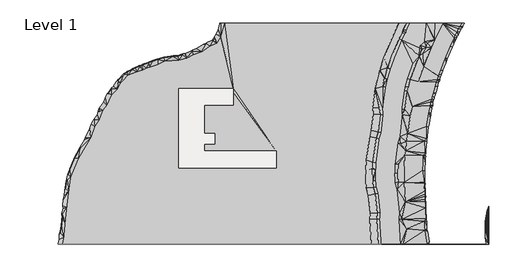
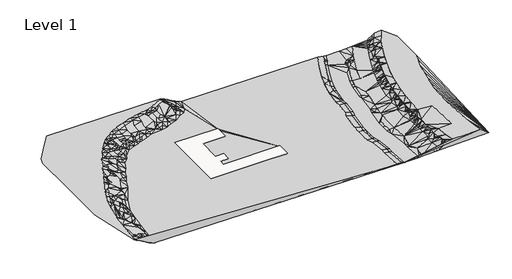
# One storey, part 2 of 2: 1 proxy.
"""IFC4 building model written with IfcOpenShell, lengths in millimetres."""

from ifc_helpers import new_model, si_unit, origin, place, context, project, spatial, triangles, element, save

model = new_model("IFC4")

# Units and contexts
model_context = context("Model", 3, world=origin())
ifc_project = project(units=[si_unit("LENGTHUNIT", "METRE", prefix="MILLI")], contexts=[model_context])

# Site, building, storey
site = spatial("IfcSite", under=ifc_project)
building = spatial("IfcBuilding", under=site)
storey = spatial("IfcBuildingStorey", under=building, Name="Level 1", Elevation=0.0)

# Proxy
placement = place(None, origin())
element("IfcBuildingElementProxy", 1, Name="Building Element Proxy", at=placement, inside=storey, context=model_context, shape_type="Tessellation", body=[
    triangles([(-116676.2735596, -32294.1497314, 9000.0000687), (-107468.0542236, -76033.9217651, 9000.0000687), (128701.1209717, -76106.7824341, -2000.0000153), (202389.0603516, -76033.9217651, 0.0), (202389.0603516, 32615.9789246, 5000.0000381), (202389.0603516, 62484.8790161, 5000.0000381), (195934.5147949, 75728.6938843, 5000.0000381), (190165.0437012, 75728.6938843, 4000.0000305), (188283.05625, 75728.6938843, 3000.0000229), (186840.7070801, 75728.6938843, 2000.0000153), (185398.3765137, 75728.6938843, 1000.0000076), (183956.0645508, 75728.6938843, 0.0), (170715.7006348, 75728.6938843, -1000.0000076), (165378.9845215, 75728.6938843, -1500.0000114), (159535.1923828, 75728.6938843, -2000.0000153), (148118.1869385, 75728.6938843, -2000.0000153), (145813.3973877, 75728.6938843, -1500.0000114), (140679.9618896, 75728.6938843, -1000.0000076), (21321.7636597, 75728.6938843, 0.0), (18626.7444397, 75728.6938843, 1000.0000076), (16020.4953827, 75728.6938843, 2000.0000153), (14239.3982849, 75728.6938843, 3000.0000229), (12455.0630127, 75728.6938843, 4000.0000305), (10673.9728912, 75728.6938843, 5000.0000381), (8908.9579514, 75728.6938843, 6000.0000458), (7114.0721603, 75728.6938843, 7000.0000534), (5233.8346024, 75728.6938843, 8000.000061), (2555.0696228, 75728.6938843, 9000.0000687), (-44190.4328979, 75728.6938843, 9000.0000687), (-74866.3790771, 75728.6938843, 9000.0000687), (-96261.7708008, 75728.6938843, 9000.0000687), (-97282.0062012, 74628.9005493, 9000.0000687), (-104125.4117432, 65879.8113281, 9000.0000687), (-114721.8812256, 51743.71604, 9000.0000687), (-116676.2735596, 46048.7566772, 9000.0000687), (-116676.2735596, 11611.0482513, 9000.0000687), (27411.8989014, 30818.5793335, -261.5912457), (27411.8989014, 29664.6311646, -261.5174493), (27411.8989014, 28463.5137817, -260.7193149), (27411.8989014, 19414.8393585, -307.9383622), (7447.5012268, 19414.8393585, -221.3500247), (7447.5012268, -89.4607912, -323.1300585), (14709.0905457, -89.4607912, -354.6245387), (14709.0905457, -7283.8612152, -392.1673416), (7447.5012268, -7283.8612152, -360.6728614), (7447.5012268, -12132.3617798, -385.9739697), (56699.1158936, -12132.3617798, -599.58495), (56699.1158936, -23510.6998169, -658.9609406), (42349.1778442, -23510.6998169, -596.723315), (263.9777279, -23510.6998169, -369.2784408), (-10026.8391357, -23510.6998169, -320.4108567), (-10026.8391357, -20495.0280762, -315.4554906), (-10026.8391357, -13894.2112152, -319.3793063), (-10026.8391357, 30818.5793335, -86.0528688), (24159.2462769, 30818.5793335, -234.3225795), (25731.3689209, 30818.5793335, -247.8374159), (-113743.5130371, -18667.4489319, 9000.0000687), (-107628.8165039, -3064.8135086, 9000.0000687), (-107550.4491943, 32101.5614868, 9000.0000687), (-106894.5357422, -72001.3493042, 9000.0000687), (-105530.6468994, -73857.8545898, 8000.000061), (-105415.3423096, -76033.9217651, 8000.000061), (-104922.7398193, -54812.9240479, 9000.0000687), (-104030.0501221, -44213.8733276, 9000.0000687), (-104029.5013184, -68672.3338989, 8000.000061), (-103868.9250732, 37662.6778564, 9000.0000687), (-103502.3893066, -43674.6829834, 9000.0000687), (-103493.1154541, -73571.5418335, 7000.0000534), (-103362.6303955, -76033.9217651, 7000.0000534), (-102433.4685059, -70185.5903687, 7000.0000534), (-102097.3866943, -44848.5276123, 8000.000061), (-102042.1435547, -68278.1021484, 7000.0000534), (-101800.9117676, 8238.9732651, 9000.0000687), (-101706.9826172, 43962.4328613, 9000.0000687), (-101455.574707, -73285.2290771, 6000.0000458), (-101333.5263428, -76033.9217651, 6000.0000458), (-101159.2858154, -29721.5486206, 9000.0000687), (-100971.9577148, -43638.9177246, 8000.000061), (-100164.7139648, -45483.181897, 7000.0000534), (-100058.8134521, -67409.4760986, 6000.0000458), (-99620.4588135, -76033.9217651, 5000.0000381), (-99346.9592285, -72653.7001831, 5000.0000381), (-99333.7507324, -44591.3014526, 7000.0000534), (-99300.236499, -22231.5360352, 9000.0000687), (-99077.2919678, -31942.2223755, 8000.000061), (-98232.0412354, -46117.8315308, 6000.0000458), (-98231.3715088, 47714.8177734, 9000.0000687), (-98029.9977539, -66022.4723877, 5000.0000381), (-97800.7001221, -45677.0723877, 6000.0000458), (-97701.1992188, -73178.8588257, 4000.0000305), (-97357.6201904, -32335.1611816, 7000.0000534), (-97158.8044189, -23773.4907532, 8000.000061), (-97115.6256592, -15843.3003845, 9000.0000687), (-96288.4761475, -76033.9217651, 3000.0000229), (-96122.4118652, -73891.9501831, 3000.0000229), (-96068.2942383, -65407.6634033, 4000.0000305), (-95751.2252197, -32825.4638123, 6000.0000458), (-95613.6708252, -24715.8006775, 7000.0000534), (-95076.2524658, -17467.5942627, 8000.000061), (-94844.34104, 53035.9766968, 9000.0000687), (-94685.0019287, -47509.5698364, 4000.0000305), (-94643.5625977, -16232.367334, 8000.000061), (-94639.3954102, -49564.7234619, 4000.0000305), (-94598.8490479, -76033.9217651, 2000.0000153), (-94357.7102783, 24969.4247314, 9000.0000687), (-94284.8310059, -73454.4978149, 2000.0000153), (-94226.2764404, -9454.0490982, 9000.0000687), (-94108.8324463, -64803.5932983, 3000.0000229), (-94107.0837158, -25490.4440918, 6000.0000458), (-93612.6301758, -18519.5242401, 7000.0000534), (-93067.6959961, -48022.2315674, 3000.0000229), (-93014.5736572, -52429.1207153, 3000.0000229), (-92603.2871338, -34101.188269, 4000.0000305), (-92287.3436279, -76033.9217651, 1000.0000076), (-92279.0557617, -11165.8010101, 8000.000061), (-92235.3840088, 27805.8609009, 9000.0000687), (-92138.5341064, -19321.7043457, 6000.0000458), (-92125.5023438, -63934.9672485, 2000.0000153), (-91524.3762451, -49225.8883301, 2000.0000153), (-91397.2398193, -54955.8734619, 2000.0000153), (-91300.1387695, -68158.1187744, 1000.0000076), (-90986.8555664, -26724.0664673, 4000.0000305), (-90972.1494873, -34467.4449829, 3000.0000229), (-90345.815625, -19368.8410034, 5000.0000381), (-90164.0220703, 31892.0254395, 9000.0000687), (-90142.181543, -63066.3365479, 1000.0000076), (-89828.814624, -55278.4351685, 1000.0000076), (-89808.1182129, -76033.9217651, 0.0), (-89765.9068359, -58113.4202637, 1000.0000076), (-89614.4463135, -13443.4143127, 6000.0000458), (-89382.7674316, -27206.7579346, 3000.0000229), (-89345.3650635, -34942.8206177, 2000.0000153), (-89313.3112061, -5487.6348083, 8000.000061), (-89017.692041, -20517.0151062, 4000.0000305), (-88454.5357178, 1758.2880249, 9000.0000687), (-87681.4852295, -37956.0157654, 1000.0000076), (-87677.2994385, -27413.2453308, 2000.0000153), (-87648.9848877, -13282.2671722, 5000.0000381), (-87626.2885986, -2202.1046848, 8000.000061), (-87624.3631348, -21513.2566223, 3000.0000229), (-86704.4750977, -133.0016383, 8000.000061), (-86695.2384521, -31968.4417053, 1000.0000076), (-86414.409082, -14508.3667511, 4000.0000305), (-86273.1432861, 38792.7181824, 9000.0000687), (-86080.5875977, 934.0961088, 8000.000061), (-85989.4210693, 64987.4657959, 9000.0000687), (-85848.825, -28342.9164917, 1000.0000076), (-85754.7005127, -21424.10625, 2000.0000153), (-85398.4431885, 2317.584264, 8000.000061), (-84796.2845947, -419.9130318, 7000.0000534), (-84716.2987793, 3701.0723465, 8000.000061), (-84679.7614746, -24879.5162659, 1000.0000076), (-84533.2773926, 4282.377562, 8000.000061), (-84174.8248535, -29980.2909668, 0.0), (-84034.1543701, 5084.5605743, 8000.000061), (-83884.1449219, -16923.2960907, 2000.0000153), (-83809.554126, 5754.1708649, 8000.000061), (-83352.0192627, 6468.0488022, 8000.000061), (-82851.2963379, 7482.3124741, 8000.000061), (-82526.8789307, 14092.8653687, 9000.0000687), (-81797.090918, 1873.3286774, 6000.0000458), (-81342.2628662, -16907.584259, 1000.0000076), (-81164.9713623, 17837.2879761, 9000.0000687), (-80340.1751953, -2728.3663124, 4000.0000305), (-79955.501001, 9466.286142, 7000.0000534), (-79627.9116943, 19891.5346802, 9000.0000687), (-79388.0379639, 49351.6853027, 9000.0000687), (-79326.4882324, 17043.8747772, 8000.000061), (-78897.1562988, -17266.875119, 0.0), (-78362.7424072, -6383.9673065, 2000.0000153), (-77778.7268921, -10298.1900146, 1000.0000076), (-77499.0369873, -5015.5031616, 2000.0000153), (-77452.8351563, 16297.4598724, 7000.0000534), (-76953.6749268, -3439.0377594, 2000.0000153), (-76702.099585, 12563.0587463, 6000.0000458), (-76459.1144165, 26121.370697, 9000.0000687), (-75797.9408203, 21925.2593811, 8000.000061), (-75677.1807495, 28399.8688293, 9000.0000687), (-75489.1503662, 15671.3725067, 6000.0000458), (-75072.8687988, 19488.6906647, 7000.0000534), (-74314.9104126, 29870.6209167, 9000.0000687), (-74245.7750977, 17418.4530762, 6000.0000458), (-73878.3417114, 27518.8388855, 8000.000061), (-73496.2161987, 22509.6074341, 7000.0000534), (-72713.273291, 12836.9315643, 4000.0000305), (-72189.2494629, 10089.2713715, 3000.0000229), (-72079.5026733, 26637.8089417, 7000.0000534), (-71657.5098267, 7354.2714523, 2000.0000153), (-71542.2936035, 14817.6839172, 4000.0000305), (-71271.4124634, 15901.5607819, 4000.0000305), (-71023.2648193, 23592.8924744, 6000.0000458), (-70771.210437, 30994.9708923, 8000.000061), (-70747.5235107, 35678.8501099, 9000.0000687), (-70341.1622681, -2820.2115784, 0.0), (-70280.6636353, 25756.7789978, 6000.0000458), (-69956.6927124, 60438.2830078, 9000.0000687), (-69936.8241577, 28960.6020447, 7000.0000534), (-69266.2185791, 14886.4529755, 3000.0000229), (-68997.3512695, 27236.409613, 6000.0000458), (-68789.5081421, 17106.7011749, 3000.0000229), (-68022.7409912, 9510.99039, 1000.0000076), (-67545.9514893, 4829.094191, 0.0), (-67535.7195557, 40424.9139038, 9000.0000687), (-66970.5912598, 15046.2885681, 2000.0000153), (-66741.8563843, 24383.9023315, 4000.0000305), (-66544.7474854, 37560.5747864, 8000.000061), (-66261.9228882, 18346.8743134, 2000.0000153), (-65140.6703979, 36445.3893677, 7000.0000534), (-64862.6687622, 24276.7298035, 3000.0000229), (-64676.9219604, 9239.1424484, 0.0), (-64674.9639404, 15206.122998, 1000.0000076), (-64260.0311279, 17138.6643402, 1000.0000076), (-63495.7056885, 32965.5971191, 5000.0000381), (-62961.8406006, 46181.5206665, 9000.0000687), (-62815.5890625, 30925.4751343, 4000.0000305), (-62101.4187012, 15968.4101898, 0.0), (-61793.8932861, 43849.2537231, 8000.000061), (-61663.8268066, 29659.2500977, 3000.0000229), (-61139.2309204, 44429.6229492, 8000.000061), (-61021.9264526, 27559.2015381, 2000.0000153), (-60829.1149658, 44897.7432129, 8000.000061), (-60174.6990967, 45489.1164185, 8000.000061), (-59960.567981, 40527.6285645, 6000.0000458), (-59864.3366455, 45946.2327026, 8000.000061), (-59357.8977905, 38639.5368347, 5000.0000381), (-59305.0265991, 19580.9513123, 0.0), (-59188.2662842, 50121.317395, 9000.0000687), (-58605.7762573, 36873.7329895, 4000.0000305), (-58484.2580933, 27296.8896423, 1000.0000076), (-58348.4570801, 69132.6825439, 9000.0000687), (-57579.5877319, 35484.2224548, 3000.0000229), (-57552.7614624, 48215.0663086, 8000.000061), (-57054.5314087, 33395.5662231, 2000.0000153), (-56291.2431152, 44699.7971558, 6000.0000458), (-56080.5350464, 26676.529834, 0.0), (-56074.8191162, 30776.7679321, 1000.0000076), (-55195.5006958, 43420.7031372, 5000.0000381), (-54952.7480713, 53607.4208862, 9000.0000687), (-54808.8824341, 41447.8561157, 4000.0000305), (-54539.7546753, 50837.6969238, 8000.000061), (-53805.0878906, 40072.7633057, 3000.0000229), (-53774.7455566, 49212.7682007, 7000.0000534), (-53039.8136719, 47671.2669434, 6000.0000458), (-52678.2357422, 38782.9838928, 2000.0000153), (-52254.5220703, 46165.7634888, 5000.0000381), (-52252.1315186, 30397.8282715, 0.0), (-51719.5082153, 36405.1732178, 1000.0000076), (-51435.6232178, 44678.5240356, 4000.0000305), (-50502.4941284, 43276.3119507, 3000.0000229), (-50184.4949341, 34459.2129272, 0.0), (-50183.4949951, 56660.4903442, 9000.0000687), (-49785.7657837, 41667.2799316, 2000.0000153), (-49780.798645, 54011.8845703, 8000.000061), (-48844.1906982, 50605.5715576, 6000.0000458), (-48356.7041748, 48958.9743896, 5000.0000381), (-47828.3643311, 42992.6083374, 2000.0000153), (-47608.8567993, 47453.7499878, 4000.0000305), (-47300.1919189, 40853.952832, 1000.0000076), (-46807.4545532, 45980.1283081, 3000.0000229), (-45832.8768311, 41940.7516113, 1000.0000076), (-44805.17677, 40098.4640625, 0.0), (-44740.7993042, 44978.891748, 2000.0000153), (-44491.3075562, 59540.2727051, 9000.0000687), (-44033.154126, 56996.5070435, 8000.000061), (-43704.4532593, 53404.4286255, 6000.0000458), (-42642.3180908, 52042.9535889, 5000.0000381), (-42352.2892822, 50340.0947388, 4000.0000305), (-42222.3483765, 43795.0849365, 1000.0000076), (-41689.9529663, 48801.7374756, 3000.0000229), (-41350.3225342, 46961.7474609, 2000.0000153), (-39908.5640259, 44971.980542, 1000.0000076), (-38494.2666321, 42519.6511597, 0.0), (-37219.6002502, 59818.306897, 8000.000061), (-37175.0355286, 56213.978064, 6000.0000458), (-37013.1477356, 62548.5262939, 9000.0000687), (-36879.0117371, 46196.5848633, 1000.0000076), (-36116.5885071, 54811.1474121, 5000.0000381), (-35964.0606079, 53093.6522461, 4000.0000305), (-35931.141687, 51333.7224609, 3000.0000229), (-35037.3543823, 46892.4168091, 1000.0000076), (-34697.098407, 43596.6877441, 0.0), (-33769.7364075, 50078.9990479, 2000.0000153), (-32183.3588196, 44940.8382568, 0.0), (-30549.9213135, 48516.127002, 1000.0000076), (-30079.5546753, 45477.1357544, 0.0), (-29664.4683838, 62294.8208496, 8000.000061), (-29657.9664551, 58762.6969116, 6000.0000458), (-29503.6223877, 64938.3897217, 9000.0000687), (-28730.7904907, 55551.4836182, 4000.0000305), (-28424.7998657, 62699.4194092, 8000.000061), (-28413.4703247, 52054.9621582, 2000.0000153), (-28237.7275635, 53952.8602661, 3000.0000229), (-28237.5043213, 49457.8044067, 1000.0000076), (-24605.3632324, 47462.0518066, 0.0), (-24554.1919373, 50849.4636475, 1000.0000076), (-22607.280542, 64008.7534424, 8000.000061), (-22087.1611267, 57248.4498047, 4000.0000305), (-21976.5492737, 60651.9490356, 6000.0000458), (-21871.5394043, 66697.1660889, 9000.0000687), (-21582.6105286, 55643.8779785, 3000.0000229), (-21392.1593628, 53962.2550415, 2000.0000153), (-20322.4246582, 51937.8018677, 1000.0000076), (-19561.5408691, 49783.2078003, 0.0), (-16622.4725922, 64988.8889648, 8000.000061), (-16045.4903687, 65178.3425171, 8000.000061), (-14706.0988678, 65302.4140137, 8000.000061), (-14285.6698792, 63591.9416748, 7000.0000534), (-14230.3093048, 52863.9685913, 1000.0000076), (-12549.9374542, 58821.1166016, 4000.0000305), (-12447.947168, 68343.9911499, 9000.0000687), (-12415.9967926, 60580.3394531, 5000.0000381), (-11149.6659485, 57447.5678833, 3000.0000229), (-10797.9699738, 55773.7863281, 2000.0000153), (-10739.71539, 53096.5311401, 1000.0000076), (-10438.8953796, 66342.8435303, 8000.000061), (-10356.5411041, 64495.3283936, 7000.0000534), (-9751.0530624, 50521.0790405, 0.0), (-9711.1095703, 62950.7156982, 6000.0000458), (-8892.7176636, 61471.6292358, 5000.0000381), (-7955.6748596, 60044.0140503, 4000.0000305), (-7647.7965591, 70061.2444702, 9000.0000687), (-7405.6741287, 54079.3176636, 1000.0000076), (-6085.5669159, 57124.0713501, 2000.0000153), (-5786.7834091, 68190.5307495, 8000.000061), (-5712.9507065, 66268.2341309, 7000.0000534), (-4943.7790512, 64786.2920288, 6000.0000458), (-4714.4052612, 51724.4009399, 0.0), (-4174.4056641, 63304.4475952, 5000.0000381), (-1725.1082188, 60797.2238892, 3000.0000229), (-1190.7351677, 70477.2330322, 8000.000061), (-912.8562716, 56489.0263916, 1000.0000076), (-461.6014029, 59535.3009155, 2000.0000153), (9.8007258, 53993.7600952, 0.0), (2166.8123623, 74936.7282715, 9000.0000687), (3057.5781944, 72590.7691406, 8000.000061), (4046.3347023, 73082.7437622, 8000.000061), (4472.4889229, 74188.9088013, 8000.000061), (4892.3961411, 74807.0943237, 8000.000061), (5319.5032104, 71783.2835449, 7000.0000534), (5757.4939178, 56059.9874634, 0.0), (6498.6265869, 70496.0737427, 6000.0000458), (6573.7295609, 74270.2247681, 7000.0000534), (7691.3404129, 69235.1646606, 5000.0000381), (8153.1267609, 69812.1247925, 5000.0000381), (8661.6463028, 67873.2524414, 4000.0000305), (8842.2846954, 61594.910083, 1000.0000076), (9337.3951721, 68572.7632324, 4000.0000305), (10388.9100586, 74919.1014404, 5000.0000381), (10514.5721558, 65046.494751, 2000.0000153), (10544.058728, 67393.9421631, 3000.0000229), (10813.0957947, 71640.4736572, 4000.0000305), (11349.4677063, 60120.8977295, 0.0), (11657.3570526, 65982.5352905, 2000.0000153), (12132.5222351, 66649.6155029, 2000.0000153), (13322.2275238, 63691.8797607, 1000.0000076), (13633.0225067, 69629.3685059, 2000.0000153), (13885.1187469, 74721.6390747, 3000.0000229), (14556.8044922, 65363.8660767, 1000.0000076), (15722.6612366, 74835.353064, 2000.0000153), (16002.4057892, 62005.9501099, 0.0), (18661.2772156, 66354.0149414, 0.0), (118073.5185059, -25230.206488, -1000.0000076), (118131.3382324, -32628.5549011, -1000.0000076), (118507.4083008, -37493.7160767, -1000.0000076), (118515.696167, -18089.7551239, -1000.0000076), (119964.8263184, -42464.2033813, -1000.0000076), (120683.8428955, -2109.3516254, -1000.0000076), (120856.4184082, -58849.7195068, -1000.0000076), (121274.9696045, -54693.5452881, -1000.0000076), (121902.4940918, -76033.9217651, -1000.0000076), (122001.1764404, 1998.2021599, -1000.0000076), (122690.0739258, -24375.1191467, -1500.0000114), (122766.9994629, -32434.678363, -1500.0000114), (122815.5081299, 17745.5982239, -1000.0000076), (122862.7424561, -24126.2668945, -1500.0000114), (123057.9956543, -19791.2710327, -1500.0000114), (123184.173999, -37022.5959961, -1500.0000114), (123203.9495361, 13205.4137238, -1000.0000076), (124530.7801758, -41548.4081177, -1500.0000114), (124676.4922119, 30839.0990112, -1000.0000076), (124848.3049805, -32347.6325134, -2000.0000153), (124915.7520264, -24819.8547913, -2000.0000153), (125134.3526367, -19966.4324341, -2000.0000153), (125222.2263428, -3143.9037392, -1500.0000114), (125232.1885254, -36604.7122009, -2000.0000153), (125515.0921875, -58892.535498, -1500.0000114), (125835.8074951, 37109.0628113, -1000.0000076), (125934.9177246, -54654.8174194, -1500.0000114), (126561.7352783, 1032.7848524, -1500.0000114), (126580.7852783, -41137.2332153, -2000.0000153), (126607.9278076, -75939.8577393, -1500.0000114), (127261.0693359, -3604.599456, -2000.0000153), (127507.1659424, 17348.3538666, -1500.0000114), (127534.6712402, 43485.234082, -1000.0000076), (127604.2576904, -58935.2166138, -2000.0000153), (127862.0838135, 13149.3066833, -1500.0000114), (128027.1249023, -54637.4277832, -2000.0000153), (128609.3126221, 599.3356556, -2000.0000153), (129601.3543945, 17296.3151825, -2000.0000153), (129603.1868408, 32100.1848267, -1500.0000114), (129953.4724365, 13124.1151978, -2000.0000153), (130567.7512207, 52085.0533447, -1000.0000076), (130762.7160645, 37907.2978088, -1500.0000114), (130969.6522705, 38165.7843567, -1500.0000114), (131651.2571777, 31723.7543152, -2000.0000153), (132870.4757813, 37208.5311584, -2000.0000153), (132920.221582, 45107.1443848, -1500.0000114), (133144.8032227, 45302.0813232, -1500.0000114), (134925.8759033, 44090.9459473, -2000.0000153), (135465.1732178, 64195.0211426, -1000.0000076), (136076.8568115, 53373.1142578, -1500.0000114), (137948.1286377, -27514.5019409, -2000.0000153), (137962.3696289, -29458.9367432, -2000.0000153), (138013.3153564, 52607.9051514, -2000.0000153), (138143.7166992, -33848.6385681, -2000.0000153), (138238.3155762, -21071.8882141, -2000.0000153), (139518.4420898, -38542.3171875, -2000.0000153), (140030.7829102, -27549.909082, -1500.0000114), (140044.5030029, -29459.4878723, -1500.0000114), (140128.2839355, -6512.069371, -2000.0000153), (140198.6145264, -33398.4846497, -1500.0000114), (140314.6632568, -21247.0519409, -1500.0000114), (140831.7944824, -58706.9468262, -2000.0000153), (140917.6218018, 65014.0967285, -1500.0000114), (141231.1282471, -54527.6995972, -2000.0000153), (141531.6773437, -2136.1800751, -2000.0000153), (141867.8986816, -76033.9217651, -2000.0000153), (142236.480835, -6756.4968933, -1500.0000114), (142816.9012207, 16960.643811, -2000.0000153), (142818.6034424, 64164.6322998, -2000.0000153), (142904.0679932, -58909.8414185, -1500.0000114), (142939.5355957, 69540.6297363, -1500.0000114), (143152.3133057, 12965.1330414, -2000.0000153), (143682.5321045, 70224.5321777, -1500.0000114), (143799.7993652, 71390.9260986, -1500.0000114), (143954.320166, -76033.9217651, -1500.0000114), (144474.3628418, -33469.8454102, -1000.0000076), (144487.0504395, -22746.006958, -1000.0000076), (144576.710083, 29348.0714172, -2000.0000153), (144668.2579834, 68301.9472046, -2000.0000153), (144897.0905273, -14822.820813, -1000.0000076), (144911.0989746, 16908.605127, -1500.0000114), (145006.6652344, -46825.8627319, -1000.0000076), (145168.1344482, 32310.0069031, -2000.0000153), (145349.6024414, -11830.9662231, -1000.0000076), (145675.043042, 69228.6580811, -2000.0000153), (145837.4889404, 70844.5036377, -2000.0000153), (145958.0304199, -5335.1499298, -1000.0000076), (146218.0331543, -65404.6868408, -1000.0000076), (146557.296167, 37558.4353821, -2000.0000153), (146624.7804199, 28971.6409058, -1500.0000114), (146897.6288818, 101.938409, -1000.0000076), (147197.545459, 31840.1309326, -1500.0000114), (148538.4496582, 36915.8211182, -1500.0000114), (148729.64729, 12101.0299713, -1000.0000076), (149798.5029785, 18622.528418, -1000.0000076), (150362.9336426, 48098.292041, -2000.0000153), (152290.1648438, 47310.1029419, -1500.0000114), (153937.5712646, 35504.9281677, -1000.0000076), (154697.6830078, 53098.7403076, -1500.0000114), (154815.8060303, 58803.6339478, -2000.0000153), (155571.173877, 60478.0433716, -2000.0000153), (156476.0674805, 57410.2771362, -1500.0000114), (156716.7783691, 57954.169519, -1500.0000114), (157060.9248047, -25330.5329224, 0.0), (157158.9095215, 54960.9336182, -1500.0000114), (157464.0443848, -15201.0674927, 0.0), (157884.0931641, 46432.0960693, -1000.0000076), (158145.6585938, -60407.9639282, 0.0), (158249.8382813, 62943.6463623, -2000.0000153), (158293.1472656, -5124.530809, 0.0), (158340.7350586, -33627.3637024, 1000.0000076), (158353.9807617, -36300.849353, 1000.0000076), (158426.7577148, -34272.1801575, 1000.0000076), (158484.0379395, -39306.6054199, 1000.0000076), (158587.3804687, -37788.326001, 1000.0000076), (158606.0583984, -66324.3237305, 0.0), (158672.5287598, -41893.0754517, 1000.0000076), (158744.1336914, -45318.1268555, 1000.0000076), (158811.5342285, -43117.4239746, 1000.0000076), (158872.9816406, -13291.7921722, 1000.0000076), (158912.5513184, -47705.2137085, 1000.0000076), (158938.6892578, -46878.3385986, 1000.0000076), (159033.4741699, -51119.9959717, 1000.0000076), (159308.3411133, -58219.7161011, 1000.0000076), (159549.5915039, 4807.7452034, 0.0), (159574.7620605, -30465.8310974, 2000.0000153), (159647.9296875, -23123.4397339, 2000.0000153), (159727.682959, 59388.6959106, -1500.0000114), (159781.7261719, -3297.6283676, 1000.0000076), (160110.524707, -76033.9217651, 0.0), (160126.9888184, -13290.5259705, 2000.0000153), (160242.3492187, 61947.7722656, -1500.0000114), (160548.4142578, -57855.6918091, 2000.0000153), (160771.7680664, -5447.4913284, 2000.0000153), (160803.6730957, -26271.680127, 3000.0000229), (160993.4847656, -64787.3524292, 2000.0000153), (161170.3111816, -76033.9217651, 1000.0000076), (161231.2376953, 14501.7985474, 0.0), (161331.5478516, -13897.974939, 3000.0000229), (161814.6811523, -58030.7043823, 3000.0000229), (162011.5063477, 4375.8997604, 2000.0000153), (162212.2010742, -4004.6834656, 3000.0000229), (162249.3708984, -64817.9180054, 3000.0000229), (162252.1242188, 19076.0530609, 0.0), (162445.0798828, -25388.0084839, 4000.0000305), (162464.4461426, 21463.2317688, 0.0), (162505.0390137, -76033.9217651, 2000.0000153), (162532.5164063, -23017.3276062, 4000.0000305), (162546.5992676, -22713.6205627, 4000.0000305), (162562.2448242, -29789.9653748, 4000.0000305), (162562.9703613, -29396.3870728, 4000.0000305), (162633.6637207, -20539.7276733, 4000.0000305), (162647.746582, -20236.0206299, 4000.0000305), (162679.0562988, -34388.7125793, 4000.0000305), (162679.7818359, -33995.1342773, 4000.0000305), (162734.8296387, -18062.1289032, 4000.0000305), (162748.8938965, -17758.420697, 4000.0000305), (162797.3188477, -38200.3008545, 4000.0000305), (162835.3630371, -38532.1782715, 4000.0000305), (162835.9769531, -15584.5289703, 4000.0000305), (162839.5488281, 58789.5092285, -1000.0000076), (162850.0598145, -15280.8219269, 4000.0000305), (162876.9046875, -24139.4823669, 4000.0000305), (162947.8770996, -42733.6613525, 4000.0000305), (162983.2609863, -21666.723999, 4000.0000305), (163028.3373047, -13121.3258331, 4000.0000305), (163089.5986816, -19193.9667938, 4000.0000305), (163098.4539551, -47267.0265015, 4000.0000305), (163167.1753418, -27131.4532288, 4000.0000305), (163168.8682617, -27475.2764282, 4000.0000305), (163189.1833008, -33318.7871887, 4000.0000305), (163193.7783691, -30827.5183228, 4000.0000305), (163195.936377, -16721.2084259, 4000.0000305), (163214.0748047, -36671.0290833, 4000.0000305), (163216.6979004, -51078.6124512, 4000.0000305), (163233.459668, -10660.5760345, 4000.0000305), (163248.1564453, -51581.0282959, 4000.0000305), (163260.304541, -10359.3223297, 4000.0000305), (163272.9921387, 23650.3075745, 0.0), (163325.137793, -14251.8498505, 4000.0000305), (163367.2747559, -55611.9776001, 4000.0000305), (163438.5820312, -8199.826236, 4000.0000305), (163448.0884277, -42100.6720825, 4000.0000305), (163465.4083008, -7898.5725311, 4000.0000305), (163511.8612793, 5723.9808472, 3000.0000229), (163517.8330078, -60145.3380981, 4000.0000305), (163535.2831055, -11797.0601532, 4000.0000305), (163643.7043945, -5739.0770187, 4000.0000305), (163670.2702148, 13955.6865326, 2000.0000153), (163670.5306641, -5437.8227325, 4000.0000305), (163682.939209, 25704.1077942, 0.0), (163711.588623, -48391.2881104, 4000.0000305), (163745.4470215, -9342.2722, 4000.0000305), (163830.3720703, -76033.9217651, 3000.0000229), (163940.0956055, -3311.7635513, 4000.0000305), (163945.6022461, -53820.9287842, 4000.0000305), (163946.9789063, -40416.9143921, 4000.0000305), (163947.4998047, -65595.7682007, 4000.0000305), (163955.6109375, -6887.4830841, 4000.0000305), (163979.6466797, -3015.7682465, 4000.0000305), (164188.6757812, -4440.8231232, 4000.0000305), (164249.2116211, -889.7086292, 4000.0000305), (164288.7626953, -593.713397, 4000.0000305), (164340.5734863, -68205.3065918, 4000.0000305), (164487.2436035, -66685.5528442, 4000.0000305), (164502.5542969, -2026.2353325, 4000.0000305), (164517.6975586, 28170.4060913, 0.0), (164558.3276367, 1532.3461475, 4000.0000305), (164597.8787109, 1828.3414524, 4000.0000305), (164733.647168, -70814.8449829, 4000.0000305), (164816.4328125, 388.3523129, 4000.0000305), (164862.7555664, -69169.6012207, 4000.0000305), (164867.4436523, 3954.4010696, 4000.0000305), (164906.9947266, 4250.3960838, 4000.0000305), (165082.4444824, -73137.019519, 4000.0000305), (165130.2927246, 2802.9399582, 4000.0000305), (165238.2675293, -71653.6449463, 4000.0000305), (165239.0302734, 64453.8053467, -1000.0000076), (165240.853418, 15233.565509, 3000.0000229), (165266.8797363, 6321.306015, 4000.0000305), (165318.9881836, 6608.9617126, 4000.0000305), (165466.8489258, 5203.9951447, 4000.0000305), (165519.7759277, -76033.9217651, 4000.0000305), (165678.8545898, 8679.8713531, 4000.0000305), (165730.9816406, 8967.5276321, 4000.0000305), (165756.0033691, 23252.6923096, 2000.0000153), (165762.384375, 32690.5022827, 0.0), (165883.2700195, 7553.5482422, 4000.0000305), (166090.8480469, 11038.4366913, 4000.0000305), (166299.6725098, 9903.1013397, 4000.0000305), (166341.3257812, 35290.3482422, 0.0), (166554.9685547, 13684.6588898, 4000.0000305), (167004.1504395, 15682.875293, 4000.0000305), (167068.6860352, 15960.2525482, 4000.0000305), (167163.136084, 14613.9230988, 4000.0000305), (167175.65625, 37043.2714783, 0.0), (167328.4097168, 24220.577417, 3000.0000229), (167401.298291, -29589.5217957, 5000.0000381), (167517.8679199, 17958.4689514, 4000.0000305), (167582.4035156, 18235.8450439, 4000.0000305), (167689.5597656, -18897.6755768, 5000.0000381), (167697.3360352, 16940.1008789, 4000.0000305), (167699.4196289, 39364.6530396, 0.0), (168031.5854004, 20234.0626099, 4000.0000305), (168231.5359863, 19266.2786591, 4000.0000305), (168352.8681152, -9241.4155655, 5000.0000381), (168433.3097168, -58719.9460327, 5000.0000381), (168545.3028809, 22509.6539429, 4000.0000305), (168609.819873, 22787.0323608, 4000.0000305), (168765.7359375, 21592.4564392, 4000.0000305), (168790.0135254, 33921.2922729, 2000.0000153), (169143.5361328, 24714.3542542, 4000.0000305), (169245.7438477, -68124.3719971, 5000.0000381), (169314.0931641, 23869.803479, 4000.0000305), (169385.0841797, 43538.8726685, 0.0), (169422.979541, 285.3020077, 5000.0000381), (169753.359375, 26909.3807373, 4000.0000305), (169929.4416504, 26054.2840942, 4000.0000305), (170066.7169922, 33797.9184082, 3000.0000229), (170363.1826172, 29104.4095459, 4000.0000305), (170472.0317871, -76033.9217651, 5000.0000381), (170544.7715332, 28238.762384, 4000.0000305), (170894.6664551, 9582.3273148, 5000.0000381), (170973.0058594, 31299.4360291, 4000.0000305), (171049.1500488, 31567.1406189, 4000.0000305), (171160.1200195, 30423.2429993, 4000.0000305), (171655.4758301, 33426.3666687, 4000.0000305), (171793.551123, 32590.5409424, 4000.0000305), (171801.4576172, 42871.6622314, 2000.0000153), (172347.8800781, 35543.93974, 4000.0000305), (172490.2527832, 34698.0518372, 4000.0000305), (172538.5103027, 17675.7862061, 5000.0000381), (172604.329541, 51973.7624634, 0.0), (173040.2843262, 37661.5151367, 4000.0000305), (173186.9544434, 36805.5650574, 4000.0000305), (173248.4018555, 43179.4480957, 3000.0000229), (173818.729834, 40037.4352295, 4000.0000305), (174507.5063965, 41882.117981, 4000.0000305), (174584.264502, 40976.9453247, 4000.0000305), (174620.0018555, 42174.355957, 4000.0000305), (174899.2220215, 50987.4459229, 2000.0000153), (175005.9503906, 27205.9579834, 5000.0000381), (175308.778418, 44019.0387085, 4000.0000305), (175409.2560059, 43151.4870117, 4000.0000305), (175421.273877, 44311.2813354, 4000.0000305), (175970.9333496, 59894.7952515, 0.0), (176110.0504395, 46155.959436, 4000.0000305), (176185.729541, 50828.3393555, 3000.0000229), (176234.2289063, 45326.0240479, 4000.0000305), (177599.5595215, 35570.1055847, 5000.0000381), (178250.7011719, 58869.6252686, 2000.0000153), (178593.8244141, 65600.3911743, 0.0), (179268.1460449, 67623.58396, 0.0), (179384.7900879, 58330.5930542, 3000.0000229), (179589.6706055, -29824.1842163, 5000.0000381), (180186.7504395, 56169.1528931, 4000.0000305), (180335.1320801, 43239.6862793, 5000.0000381), (180479.3279297, -10490.6817535, 5000.0000381), (180613.4964844, -58215.302417, 5000.0000381), (180624.5283691, 69535.5928345, 0.0), (181334.5501465, 71828.4714844, 0.0), (181843.7469727, 66447.7348022, 2000.0000153), (181860.4715332, 59825.6831909, 4000.0000305), (182578.232373, 61387.0343994, 4000.0000305), (182655.2323242, 73470.7991455, 0.0), (182658.8600098, 60599.0778442, 4000.0000305), (182809.1206055, -76033.9217651, 5000.0000381), (182855.0526855, 7224.2683411, 5000.0000381), (182990.4118652, 65937.6078003, 3000.0000229), (185211.5228027, 55146.4153198, 5000.0000381), (185845.270166, 74000.8923706, 2000.0000153), (186681.0331055, 23698.2767395, 5000.0000381), (187347.7272949, 74105.2208862, 3000.0000229), (187378.9253906, 70892.8588257, 4000.0000305), (188751.1020996, 62650.8921387, 5000.0000381), (191644.8975586, 38689.9081787, 5000.0000381), (191778.0429199, -30058.8489624, 5000.0000381), (192085.261377, -19383.7226532, 5000.0000381), (192274.3475098, 69375.9932739, 5000.0000381), (192704.3119629, -10783.5150421, 5000.0000381), (192793.7018555, -57710.6588013, 5000.0000381), (193369.40625, -64217.4383789, 5000.0000381), (193678.9501465, -2358.1307716, 5000.0000381), (194815.438916, 4866.1663467, 5000.0000381), (195146.2280273, -76033.9217651, 5000.0000381), (196516.7862305, 13061.7131927, 5000.0000381), (198356.1344238, 20190.597821, 5000.0000381), (199581.2317383, 57054.4895508, 5000.0000381), (200625.7075195, 27554.941333, 5000.0000381), (-85300.1980225, 8238.9732651, 9000.0000687), (-85510.8921387, -39486.8641846, 0.0), (-86875.8227783, -50603.3809937, 0.0), (-87994.2754395, -61244.7640137, 0.0), (-88865.8408447, -71206.7140869, 0.0)], [[2, 62, 61], [62, 2, 3], [61, 69, 68], [69, 61, 62], [68, 69, 76], [60, 61, 68], [62, 3, 69], [2, 61, 60], [76, 81, 75], [81, 76, 3], [81, 82, 75], [82, 81, 90], [82, 90, 80], [68, 75, 70], [81, 94, 90], [76, 75, 68], [69, 3, 76], [82, 70, 75], [60, 70, 65], [70, 60, 68], [63, 65, 72], [65, 63, 60], [71, 63, 79], [63, 71, 64], [72, 65, 70], [2, 60, 1], [80, 88, 63], [80, 72, 70], [80, 70, 82], [103, 86, 63], [83, 79, 86], [79, 63, 86], [101, 89, 86], [71, 79, 78], [88, 96, 63], [63, 72, 80], [90, 88, 80], [89, 83, 86], [88, 90, 96], [1, 60, 63], [94, 104, 95], [104, 94, 3], [106, 96, 90], [106, 95, 104], [96, 106, 121], [90, 95, 106], [104, 114, 106], [95, 90, 94], [114, 128, 695], [128, 114, 3], [695, 128, 51], [695, 121, 106], [108, 121, 118], [108, 96, 121], [126, 118, 121], [96, 108, 120], [121, 695, 126], [106, 114, 695], [104, 3, 114], [129, 108, 118], [103, 112, 119], [63, 112, 103], [103, 111, 101], [111, 103, 119], [692, 136, 111], [89, 101, 136], [112, 693, 119], [101, 86, 103], [126, 694, 129], [694, 126, 695], [129, 694, 127], [129, 120, 108], [127, 693, 112], [127, 120, 129], [693, 127, 694], [127, 112, 120], [693, 694, 51], [112, 63, 120], [129, 118, 126], [136, 101, 111], [694, 695, 51], [96, 120, 63], [81, 3, 94], [111, 119, 692], [64, 67, 1], [64, 71, 67], [67, 77, 1], [85, 77, 67], [85, 67, 78], [57, 1, 77], [78, 67, 71], [64, 1, 63], [97, 91, 78], [97, 83, 113], [85, 91, 98], [85, 78, 91], [109, 98, 91], [85, 98, 77], [110, 92, 98], [78, 83, 97], [79, 83, 78], [92, 77, 98], [58, 57, 93], [57, 77, 84], [36, 58, 73], [58, 36, 57], [107, 73, 58], [59, 36, 73], [93, 57, 84], [57, 36, 1], [92, 110, 99], [102, 99, 110], [99, 102, 93], [99, 93, 84], [105, 73, 691], [115, 107, 93], [135, 73, 107], [107, 58, 93], [93, 102, 115], [99, 84, 92], [77, 92, 84], [105, 59, 73], [109, 91, 97], [113, 123, 131], [123, 113, 136], [134, 109, 122], [109, 97, 122], [131, 122, 113], [140, 122, 131], [123, 142, 131], [122, 97, 113], [132, 136, 142], [136, 132, 123], [692, 142, 136], [142, 137, 131], [122, 140, 134], [131, 137, 140], [152, 140, 137], [143, 124, 134], [134, 140, 148], [123, 132, 142], [83, 89, 113], [109, 134, 117], [110, 117, 130], [124, 117, 134], [107, 115, 133], [115, 102, 130], [163, 116, 105], [110, 130, 102], [124, 130, 117], [110, 98, 117], [138, 133, 115], [143, 138, 130], [139, 133, 164], [138, 115, 130], [135, 139, 141], [139, 135, 133], [150, 141, 139], [135, 691, 73], [138, 170, 133], [135, 107, 133], [143, 130, 124], [145, 135, 141], [142, 147, 137], [98, 109, 117], [89, 136, 113], [66, 105, 116], [692, 119, 693], [140, 152, 148], [137, 147, 152], [139, 164, 150], [134, 148, 156], [156, 143, 134], [150, 145, 141], [147, 142, 154], [142, 692, 154], [162, 152, 169], [154, 152, 147], [170, 164, 133], [156, 148, 162], [171, 143, 162], [162, 143, 156], [169, 152, 154], [162, 148, 152], [154, 692, 51], [150, 164, 161], [151, 135, 149], [145, 150, 149], [135, 153, 691], [135, 151, 153], [153, 151, 161], [691, 153, 155], [149, 161, 151], [149, 135, 145], [155, 161, 157], [161, 155, 153], [157, 161, 158], [155, 157, 691], [161, 159, 158], [159, 161, 165], [691, 159, 160], [159, 691, 158], [165, 161, 188], [158, 691, 157], [150, 161, 149], [165, 160, 159], [161, 164, 174], [171, 138, 143], [194, 171, 169], [51, 169, 154], [170, 171, 172], [138, 171, 170], [171, 194, 172], [172, 174, 164], [51, 194, 169], [171, 162, 169], [52, 194, 51], [46, 44, 45], [53, 194, 52], [692, 693, 51], [186, 165, 188], [188, 174, 194], [175, 186, 185], [175, 165, 186], [186, 198, 185], [175, 185, 179], [186, 188, 201], [161, 174, 188], [172, 194, 174], [53, 226, 210], [53, 210, 194], [201, 202, 210], [201, 188, 202], [210, 202, 194], [198, 186, 201], [210, 204, 201], [202, 188, 194], [41, 42, 43], [43, 47, 40], [164, 170, 172], [128, 50, 51], [160, 165, 175], [160, 173, 168], [160, 175, 173], [163, 168, 166], [168, 163, 160], [166, 168, 173], [166, 176, 116], [173, 180, 166], [163, 105, 160], [182, 179, 189], [173, 175, 179], [179, 185, 189], [190, 189, 198], [184, 180, 182], [180, 173, 182], [190, 182, 189], [182, 200, 184], [190, 200, 182], [182, 173, 179], [198, 189, 185], [166, 180, 177], [183, 176, 184], [177, 176, 166], [178, 183, 181], [183, 178, 176], [181, 183, 197], [125, 176, 178], [176, 177, 184], [176, 125, 116], [187, 184, 191], [200, 191, 184], [199, 195, 205], [187, 191, 195], [187, 199, 197], [199, 187, 195], [215, 197, 199], [187, 197, 183], [205, 195, 191], [184, 187, 183], [177, 180, 184], [192, 181, 197], [200, 190, 198], [116, 163, 166], [200, 204, 207], [204, 200, 198], [205, 207, 209], [205, 191, 207], [212, 209, 207], [215, 199, 209], [207, 204, 212], [207, 191, 200], [211, 216, 212], [211, 210, 216], [212, 216, 226], [211, 212, 204], [246, 226, 54], [226, 216, 210], [226, 53, 54], [226, 220, 209], [204, 210, 211], [212, 226, 209], [198, 201, 204], [229, 235, 236], [229, 220, 226], [220, 229, 218], [220, 218, 209], [218, 229, 236], [209, 218, 215], [235, 246, 236], [229, 226, 235], [235, 226, 246], [38, 39, 47], [360, 55, 56], [360, 56, 37], [38, 47, 37], [236, 246, 233], [333, 54, 55], [47, 39, 40], [209, 199, 205], [43, 40, 41], [233, 218, 236], [46, 47, 44], [160, 105, 691], [128, 370, 50], [144, 178, 181], [125, 178, 144], [66, 116, 125], [105, 66, 59], [193, 144, 181], [208, 206, 193], [206, 203, 193], [193, 192, 208], [192, 193, 181], [231, 213, 233], [213, 208, 192], [213, 228, 208], [228, 213, 231], [225, 228, 241], [206, 208, 223], [213, 215, 233], [192, 197, 213], [197, 215, 213], [225, 208, 228], [125, 74, 66], [125, 144, 74], [87, 74, 144], [167, 193, 203], [217, 203, 223], [203, 217, 214], [144, 193, 167], [59, 66, 35], [219, 234, 221], [223, 219, 217], [223, 203, 206], [219, 223, 234], [214, 221, 222], [234, 222, 221], [234, 224, 222], [221, 214, 219], [239, 223, 225], [217, 219, 214], [223, 208, 225], [214, 222, 224], [241, 228, 231], [35, 66, 74], [247, 244, 231], [233, 246, 247], [241, 249, 239], [239, 225, 241], [241, 231, 244], [252, 241, 244], [247, 252, 244], [237, 223, 239], [250, 261, 258], [261, 250, 272], [258, 261, 260], [258, 252, 247], [260, 256, 258], [258, 256, 252], [261, 268, 260], [241, 252, 249], [272, 54, 281], [258, 247, 250], [215, 218, 233], [272, 268, 261], [248, 249, 259], [248, 239, 249], [245, 234, 237], [234, 223, 237], [237, 239, 248], [248, 245, 237], [259, 249, 256], [249, 252, 256], [268, 272, 271], [262, 260, 268], [283, 281, 285], [281, 276, 272], [271, 270, 268], [268, 270, 262], [281, 283, 280], [259, 256, 262], [285, 281, 54], [262, 256, 260], [272, 276, 271], [232, 224, 234], [272, 250, 246], [247, 231, 233], [247, 246, 250], [283, 285, 284], [87, 34, 74], [245, 243, 234], [33, 34, 87], [34, 35, 74], [144, 167, 100], [100, 87, 144], [167, 214, 196], [234, 243, 232], [227, 224, 232], [254, 240, 242], [232, 243, 242], [232, 240, 227], [240, 232, 242], [254, 253, 240], [196, 214, 227], [243, 254, 242], [227, 214, 224], [214, 167, 203], [240, 238, 227], [100, 146, 33], [100, 167, 146], [146, 32, 33], [32, 146, 31], [146, 30, 31], [100, 33, 87], [238, 253, 251], [253, 238, 240], [251, 253, 264], [238, 251, 230], [30, 196, 230], [196, 30, 146], [230, 196, 238], [30, 230, 29], [251, 263, 230], [146, 167, 196], [227, 238, 196], [243, 245, 255], [267, 257, 269], [257, 245, 248], [266, 254, 255], [255, 254, 243], [267, 255, 257], [267, 266, 255], [257, 259, 269], [257, 255, 245], [269, 270, 276], [269, 262, 270], [276, 281, 280], [280, 279, 276], [269, 276, 279], [282, 280, 284], [292, 278, 282], [267, 269, 279], [283, 284, 280], [269, 259, 262], [271, 276, 270], [279, 280, 282], [264, 265, 274], [266, 265, 254], [263, 264, 273], [251, 264, 263], [29, 263, 275], [29, 230, 263], [266, 274, 265], [253, 265, 264], [274, 266, 278], [274, 278, 277], [278, 279, 282], [289, 277, 278], [273, 274, 287], [274, 273, 264], [287, 274, 277], [273, 275, 263], [273, 286, 275], [278, 266, 279], [266, 267, 279], [29, 275, 288], [284, 291, 282], [254, 265, 253], [257, 248, 259], [285, 293, 284], [59, 35, 36], [291, 293, 295], [293, 285, 294], [278, 292, 289], [282, 291, 292], [295, 292, 291], [292, 297, 289], [294, 295, 293], [277, 289, 287], [295, 303, 302], [303, 295, 294], [301, 302, 308], [302, 301, 295], [308, 302, 303], [300, 292, 301], [303, 317, 308], [295, 301, 292], [294, 54, 303], [300, 301, 308], [290, 287, 298], [287, 289, 297], [287, 290, 286], [296, 290, 298], [290, 296, 288], [286, 290, 288], [298, 287, 297], [287, 286, 273], [308, 309, 300], [309, 308, 312], [309, 312, 311], [309, 298, 297], [309, 307, 298], [307, 309, 311], [307, 311, 316], [296, 298, 304], [312, 319, 311], [309, 297, 300], [292, 300, 297], [307, 304, 298], [308, 313, 312], [291, 284, 293], [317, 314, 308], [322, 317, 327], [313, 314, 322], [314, 313, 308], [322, 314, 317], [313, 322, 323], [317, 54, 327], [317, 303, 54], [54, 333, 327], [333, 340, 331], [327, 333, 331], [329, 323, 331], [331, 323, 327], [332, 331, 340], [323, 320, 312], [340, 346, 332], [327, 323, 322], [340, 333, 55], [332, 329, 331], [326, 319, 328], [319, 312, 320], [325, 316, 318], [316, 311, 318], [326, 318, 319], [306, 307, 316], [319, 320, 328], [318, 311, 319], [332, 346, 329], [329, 320, 323], [346, 352, 355], [328, 329, 330], [345, 329, 346], [355, 352, 360], [355, 360, 358], [328, 330, 326], [340, 55, 352], [329, 328, 320], [352, 346, 340], [349, 346, 355], [360, 352, 55], [323, 312, 313], [285, 54, 294], [326, 325, 318], [296, 299, 288], [296, 304, 299], [310, 299, 305], [305, 299, 304], [305, 304, 307], [310, 305, 306], [325, 315, 316], [310, 29, 299], [315, 325, 324], [315, 306, 316], [324, 325, 330], [315, 324, 321], [315, 321, 310], [321, 324, 330], [321, 330, 334], [321, 29, 310], [330, 343, 341], [315, 310, 306], [307, 306, 305], [29, 321, 28], [335, 336, 334], [336, 335, 339], [334, 337, 28], [337, 334, 336], [28, 337, 338], [334, 28, 321], [336, 339, 337], [335, 334, 330], [339, 341, 342], [341, 339, 335], [26, 342, 25], [342, 338, 337], [342, 27, 338], [27, 342, 26], [338, 27, 28], [342, 341, 344], [342, 337, 339], [335, 330, 341], [325, 326, 330], [299, 29, 288], [347, 345, 350], [343, 330, 329], [343, 347, 344], [347, 343, 345], [351, 344, 347], [351, 342, 344], [345, 349, 350], [345, 343, 329], [354, 353, 358], [353, 349, 355], [361, 358, 360], [356, 358, 361], [350, 354, 356], [354, 350, 353], [356, 354, 358], [350, 356, 347], [361, 359, 356], [353, 350, 349], [355, 358, 353], [351, 347, 356], [23, 348, 357], [348, 25, 342], [24, 25, 348], [23, 24, 348], [348, 351, 357], [342, 351, 348], [22, 357, 359], [357, 351, 356], [357, 356, 359], [359, 361, 20], [21, 22, 359], [20, 21, 359], [357, 22, 23], [19, 20, 361], [361, 37, 19], [344, 341, 343], [346, 349, 345], [360, 37, 361], [286, 288, 275], [54, 272, 246], [37, 394, 19], [370, 391, 386], [391, 370, 3], [368, 386, 369], [386, 368, 370], [388, 369, 386], [48, 368, 369], [391, 395, 386], [48, 370, 368], [3, 427, 423], [427, 3, 436], [3, 423, 395], [431, 423, 449], [397, 395, 423], [388, 386, 395], [423, 427, 449], [3, 395, 391], [370, 128, 3], [425, 423, 431], [366, 379, 377], [366, 369, 379], [373, 364, 377], [377, 364, 366], [385, 377, 379], [385, 373, 377], [379, 390, 385], [48, 369, 366], [390, 388, 397], [397, 388, 395], [425, 397, 423], [417, 397, 425], [390, 417, 415], [417, 390, 397], [421, 415, 417], [390, 415, 385], [417, 425, 443], [388, 390, 379], [369, 388, 379], [381, 385, 415], [425, 431, 443], [364, 48, 366], [436, 477, 449], [477, 436, 491], [484, 443, 431], [469, 449, 477], [431, 469, 485], [443, 484, 482], [469, 477, 497], [469, 431, 449], [477, 565, 497], [491, 436, 3], [497, 547, 469], [501, 494, 469], [484, 485, 494], [484, 431, 485], [485, 469, 494], [482, 484, 536], [484, 494, 542], [571, 477, 491], [3, 498, 491], [483, 482, 529], [437, 475, 473], [475, 437, 443], [437, 474, 472], [474, 437, 473], [487, 472, 516], [437, 472, 465], [474, 473, 515], [437, 417, 443], [480, 479, 525], [483, 479, 443], [483, 529, 479], [480, 478, 443], [476, 475, 520], [475, 443, 478], [478, 520, 475], [475, 476, 473], [476, 535, 473], [443, 479, 480], [443, 482, 483], [474, 516, 472], [525, 478, 480], [427, 436, 449], [3, 508, 498], [421, 417, 437], [372, 362, 373], [363, 362, 48], [48, 49, 370], [362, 365, 48], [375, 362, 372], [362, 363, 373], [48, 364, 363], [382, 373, 381], [373, 385, 381], [381, 415, 413], [382, 381, 413], [383, 375, 382], [375, 372, 382], [412, 382, 413], [416, 382, 412], [412, 422, 416], [382, 372, 373], [364, 373, 363], [376, 362, 375], [367, 365, 384], [365, 47, 48], [47, 367, 371], [367, 47, 365], [384, 371, 367], [47, 371, 378], [384, 365, 376], [365, 362, 376], [392, 383, 420], [416, 383, 382], [398, 392, 420], [392, 384, 376], [392, 389, 384], [389, 392, 398], [401, 389, 398], [384, 389, 371], [420, 383, 416], [392, 376, 383], [376, 375, 383], [396, 371, 389], [412, 413, 418], [37, 47, 380], [437, 438, 418], [421, 419, 413], [418, 438, 422], [418, 419, 437], [422, 438, 441], [441, 416, 422], [421, 437, 419], [419, 418, 413], [465, 487, 496], [467, 438, 465], [512, 496, 487], [465, 496, 488], [467, 441, 438], [467, 465, 488], [500, 492, 467], [441, 467, 445], [514, 467, 488], [465, 438, 437], [472, 487, 465], [441, 420, 416], [428, 445, 448], [445, 428, 420], [428, 426, 420], [426, 428, 448], [426, 448, 452], [420, 426, 398], [445, 471, 448], [445, 420, 441], [495, 481, 539], [492, 481, 467], [492, 539, 481], [481, 495, 471], [452, 471, 490], [452, 448, 471], [490, 471, 495], [486, 452, 490], [495, 503, 490], [471, 445, 481], [445, 467, 481], [398, 426, 433], [496, 506, 488], [422, 412, 418], [413, 415, 421], [433, 426, 452], [491, 498, 571], [370, 49, 50], [501, 469, 547], [547, 497, 504], [553, 482, 536], [536, 484, 538], [482, 553, 529], [529, 525, 479], [504, 497, 565], [576, 498, 508], [608, 542, 547], [547, 542, 501], [557, 536, 538], [542, 557, 484], [557, 538, 484], [536, 557, 553], [555, 576, 508], [547, 504, 559], [3, 555, 508], [529, 553, 544], [516, 515, 532], [476, 519, 535], [512, 511, 533], [516, 532, 487], [533, 511, 487], [512, 487, 511], [515, 473, 535], [474, 515, 516], [478, 544, 520], [520, 519, 476], [544, 525, 529], [535, 520, 558], [532, 535, 599], [532, 515, 535], [533, 532, 599], [487, 532, 533], [520, 544, 558], [519, 520, 535], [544, 478, 525], [512, 533, 599], [544, 553, 558], [512, 531, 496], [576, 578, 571], [578, 576, 622], [565, 571, 573], [477, 571, 565], [573, 571, 578], [566, 565, 573], [578, 614, 573], [566, 504, 565], [660, 614, 668], [686, 668, 3], [4, 686, 3], [686, 683, 668], [622, 614, 578], [584, 3, 622], [614, 622, 668], [622, 576, 584], [686, 4, 683], [584, 555, 3], [576, 555, 584], [566, 573, 614], [542, 608, 557], [559, 504, 566], [558, 656, 599], [660, 558, 553], [558, 599, 535], [553, 557, 608], [559, 566, 614], [608, 547, 559], [608, 559, 614], [614, 660, 608], [660, 683, 682], [660, 656, 558], [660, 678, 656], [678, 660, 682], [682, 683, 4], [599, 656, 602], [4, 678, 682], [553, 608, 660], [668, 683, 660], [599, 531, 512], [4, 679, 678], [576, 571, 498], [622, 3, 668], [679, 656, 678], [510, 488, 509], [510, 509, 526], [513, 528, 514], [510, 526, 513], [514, 517, 467], [513, 488, 510], [509, 488, 524], [513, 514, 488], [506, 530, 524], [506, 496, 530], [524, 530, 599], [526, 524, 602], [514, 528, 517], [513, 526, 528], [602, 528, 526], [517, 528, 534], [528, 602, 534], [526, 509, 524], [531, 530, 496], [517, 518, 467], [521, 500, 467], [523, 521, 541], [543, 545, 495], [523, 500, 521], [541, 500, 523], [527, 492, 500], [521, 518, 534], [467, 518, 521], [500, 541, 527], [541, 521, 534], [602, 541, 534], [492, 548, 537], [543, 495, 539], [554, 539, 537], [554, 543, 539], [492, 537, 539], [527, 541, 548], [492, 527, 548], [518, 517, 534], [545, 549, 495], [530, 531, 599], [506, 524, 488], [560, 543, 554], [554, 548, 607], [545, 560, 549], [562, 551, 549], [551, 503, 495], [551, 495, 549], [545, 543, 560], [554, 537, 548], [602, 656, 659], [599, 602, 524], [679, 4, 681], [659, 679, 681], [562, 560, 607], [560, 554, 607], [659, 607, 602], [617, 607, 659], [562, 549, 560], [548, 541, 607], [541, 602, 607], [684, 659, 681], [561, 556, 567], [556, 503, 562], [561, 567, 563], [564, 563, 572], [564, 502, 490], [563, 503, 561], [562, 567, 556], [561, 503, 556], [562, 617, 567], [562, 607, 617], [577, 572, 617], [567, 617, 572], [570, 569, 577], [569, 564, 572], [572, 577, 569], [564, 569, 502], [669, 659, 684], [572, 563, 567], [617, 659, 669], [490, 563, 564], [4, 684, 681], [562, 503, 551], [679, 659, 656], [503, 563, 490], [4, 685, 684], [542, 494, 501], [569, 570, 502], [401, 433, 429], [433, 401, 398], [393, 378, 396], [396, 389, 401], [401, 399, 396], [429, 399, 401], [433, 442, 429], [371, 396, 378], [499, 486, 546], [486, 490, 502], [456, 442, 455], [455, 442, 433], [499, 455, 486], [456, 455, 499], [486, 502, 546], [455, 433, 452], [486, 455, 452], [429, 442, 439], [393, 399, 380], [399, 393, 396], [393, 380, 374], [380, 399, 400], [380, 400, 387], [374, 380, 47], [399, 405, 400], [393, 374, 378], [442, 451, 439], [405, 399, 429], [451, 456, 540], [439, 451, 453], [439, 444, 405], [444, 439, 453], [454, 444, 453], [400, 405, 406], [453, 451, 459], [429, 439, 405], [456, 451, 442], [406, 405, 444], [505, 456, 499], [378, 374, 47], [575, 574, 583], [574, 546, 502], [581, 546, 583], [575, 546, 574], [575, 583, 546], [546, 581, 582], [583, 574, 577], [502, 570, 574], [581, 589, 582], [589, 581, 583], [589, 583, 624], [582, 589, 585], [585, 591, 586], [591, 585, 589], [586, 550, 499], [585, 586, 546], [589, 624, 591], [582, 585, 546], [583, 577, 617], [590, 586, 591], [605, 587, 507], [499, 550, 580], [540, 552, 451], [587, 540, 507], [587, 552, 540], [540, 456, 507], [505, 499, 580], [505, 507, 456], [550, 593, 580], [593, 550, 590], [593, 590, 624], [594, 580, 596], [552, 598, 568], [605, 507, 505], [552, 587, 598], [588, 568, 621], [580, 593, 596], [600, 505, 580], [550, 586, 590], [459, 451, 552], [624, 590, 591], [499, 546, 586], [574, 570, 577], [568, 459, 552], [387, 403, 394], [387, 400, 403], [402, 394, 407], [404, 394, 403], [407, 394, 404], [402, 19, 394], [403, 406, 404], [394, 37, 387], [409, 407, 404], [414, 409, 457], [407, 409, 408], [409, 404, 406], [408, 414, 411], [414, 408, 409], [411, 414, 430], [411, 402, 408], [430, 414, 457], [408, 402, 407], [406, 403, 400], [402, 411, 410], [411, 424, 410], [424, 411, 430], [410, 432, 18], [432, 410, 424], [440, 432, 424], [18, 432, 435], [424, 430, 440], [18, 19, 410], [434, 440, 446], [440, 434, 432], [462, 446, 440], [434, 446, 447], [435, 447, 17], [447, 435, 434], [17, 447, 16], [435, 17, 18], [446, 470, 447], [434, 435, 432], [462, 440, 430], [450, 409, 406], [410, 19, 402], [454, 459, 458], [450, 444, 454], [450, 458, 457], [458, 450, 454], [457, 458, 460], [430, 457, 460], [459, 468, 458], [450, 406, 444], [468, 459, 597], [592, 459, 588], [612, 592, 588], [466, 468, 522], [460, 466, 463], [466, 460, 468], [464, 463, 466], [460, 461, 430], [634, 522, 468], [468, 460, 458], [453, 459, 454], [461, 460, 463], [461, 464, 462], [464, 461, 463], [470, 15, 447], [446, 462, 470], [489, 470, 462], [447, 15, 16], [462, 464, 489], [430, 461, 462], [489, 522, 493], [489, 464, 466], [493, 522, 579], [579, 470, 493], [15, 579, 14], [15, 470, 579], [13, 14, 579], [579, 522, 647], [493, 470, 489], [466, 522, 489], [597, 459, 592], [457, 409, 450], [588, 459, 568], [580, 594, 595], [387, 37, 380], [595, 596, 603], [596, 595, 594], [600, 603, 601], [603, 600, 595], [601, 603, 606], [601, 605, 505], [633, 611, 606], [601, 505, 600], [605, 606, 611], [606, 605, 601], [609, 611, 610], [611, 609, 605], [610, 611, 615], [609, 610, 598], [633, 615, 611], [609, 598, 587], [603, 633, 606], [605, 609, 587], [618, 621, 568], [613, 598, 615], [635, 604, 597], [597, 592, 612], [620, 597, 612], [616, 468, 604], [598, 613, 618], [598, 618, 568], [619, 618, 613], [619, 615, 643], [618, 619, 623], [588, 621, 625], [625, 612, 588], [626, 620, 612], [623, 621, 618], [627, 621, 623], [619, 643, 623], [613, 615, 619], [598, 610, 615], [631, 597, 620], [603, 596, 633], [580, 595, 600], [643, 615, 633], [643, 633, 673], [626, 625, 627], [625, 621, 627], [627, 623, 643], [643, 629, 627], [633, 624, 669], [596, 624, 633], [669, 685, 687], [583, 617, 624], [685, 4, 687], [669, 687, 673], [673, 688, 690], [688, 673, 687], [688, 687, 4], [651, 643, 673], [688, 4, 690], [669, 673, 633], [669, 624, 617], [677, 673, 690], [629, 628, 620], [626, 627, 629], [632, 631, 620], [632, 628, 629], [631, 632, 636], [632, 620, 628], [629, 651, 632], [629, 620, 626], [635, 636, 651], [651, 636, 632], [629, 643, 651], [651, 673, 677], [651, 638, 635], [640, 638, 651], [658, 651, 677], [635, 638, 604], [5, 689, 677], [636, 635, 631], [5, 677, 690], [631, 635, 597], [4, 5, 690], [625, 626, 612], [596, 593, 624], [604, 638, 630], [639, 640, 641], [639, 630, 638], [616, 630, 637], [616, 604, 630], [637, 630, 639], [634, 616, 637], [639, 641, 637], [638, 640, 639], [640, 645, 641], [645, 640, 658], [645, 658, 650], [645, 644, 637], [645, 646, 644], [646, 645, 650], [637, 646, 648], [644, 646, 637], [658, 648, 650], [645, 637, 641], [640, 651, 658], [650, 648, 646], [652, 634, 642], [648, 642, 634], [647, 653, 579], [522, 634, 647], [652, 647, 634], [579, 653, 13], [642, 648, 649], [648, 634, 637], [642, 657, 652], [649, 648, 658], [655, 664, 652], [652, 657, 655], [652, 665, 653], [654, 653, 663], [653, 654, 13], [653, 647, 652], [655, 657, 664], [642, 649, 657], [649, 671, 657], [13, 654, 661], [649, 658, 671], [468, 616, 634], [664, 667, 665], [667, 664, 671], [663, 661, 654], [653, 665, 663], [663, 665, 670], [661, 663, 670], [667, 676, 665], [652, 664, 665], [676, 671, 689], [671, 658, 677], [6, 689, 5], [676, 689, 6], [675, 670, 676], [670, 665, 676], [680, 676, 6], [661, 670, 675], [6, 7, 680], [676, 667, 671], [664, 657, 671], [680, 675, 676], [666, 12, 13], [672, 666, 675], [12, 672, 11], [672, 12, 666], [11, 672, 10], [666, 662, 675], [666, 13, 662], [672, 674, 10], [674, 672, 675], [674, 675, 8], [10, 674, 9], [674, 8, 9], [675, 680, 8], [680, 7, 8], [662, 661, 675], [661, 662, 13], [677, 689, 671], [604, 468, 597], [684, 685, 669], [44, 47, 43]], closed=False),
])

save(model, "model.ifc")
